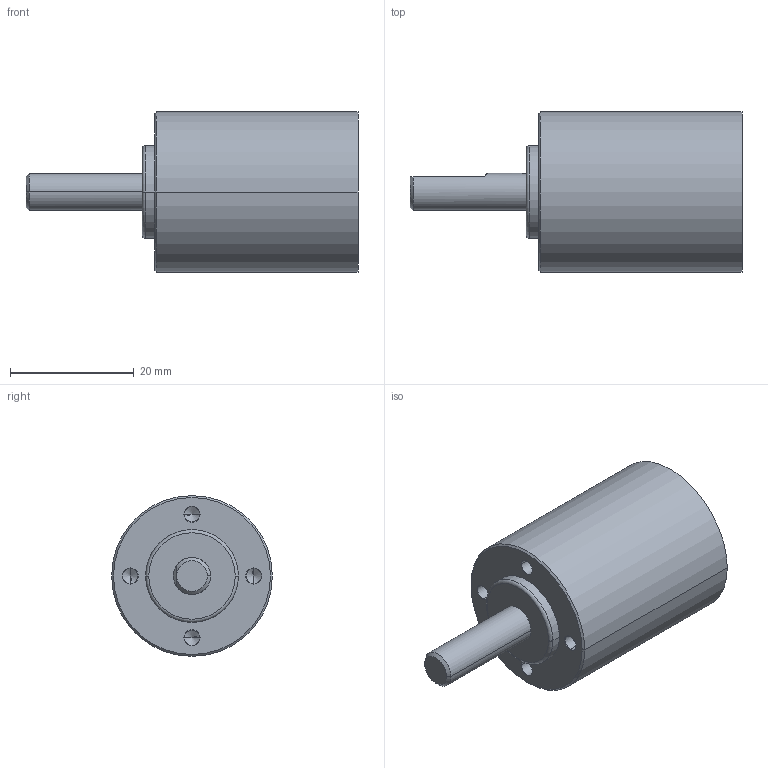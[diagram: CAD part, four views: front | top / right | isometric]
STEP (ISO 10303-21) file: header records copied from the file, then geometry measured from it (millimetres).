
FILE_DESCRIPTION((''),'2;1');
FILE_NAME('1236592','2016-10-07T',('mmagpetk'),(''),'CREO PARAMETRIC BY PTC INC, 2016050','CREO PARAMETRIC BY PTC INC, 2016050','');
FILE_SCHEMA(('CONFIG_CONTROL_DESIGN'));
Length unit declared in the file: millimetre
Products named in the file (1): 1236592
Bounding box: 53.7 x 26 x 26 mm (x, y, z)
Volume: 16265.4 mm3; surface area: 4689.8 mm2
Topology: 1 solids, 1 shells, 53 faces, 115 edges, 64 vertices
Faces by surface type: cone 22, cylinder 21, plane 8, torus 2
Entity records: 1498 total; most frequent: DIRECTION 263, CARTESIAN_POINT 249, ORIENTED_EDGE 214, AXIS2_PLACEMENT_3D 109, EDGE_CURVE 107, VERTEX_POINT 64, EDGE_LOOP 61, COLOUR_RGB 58
